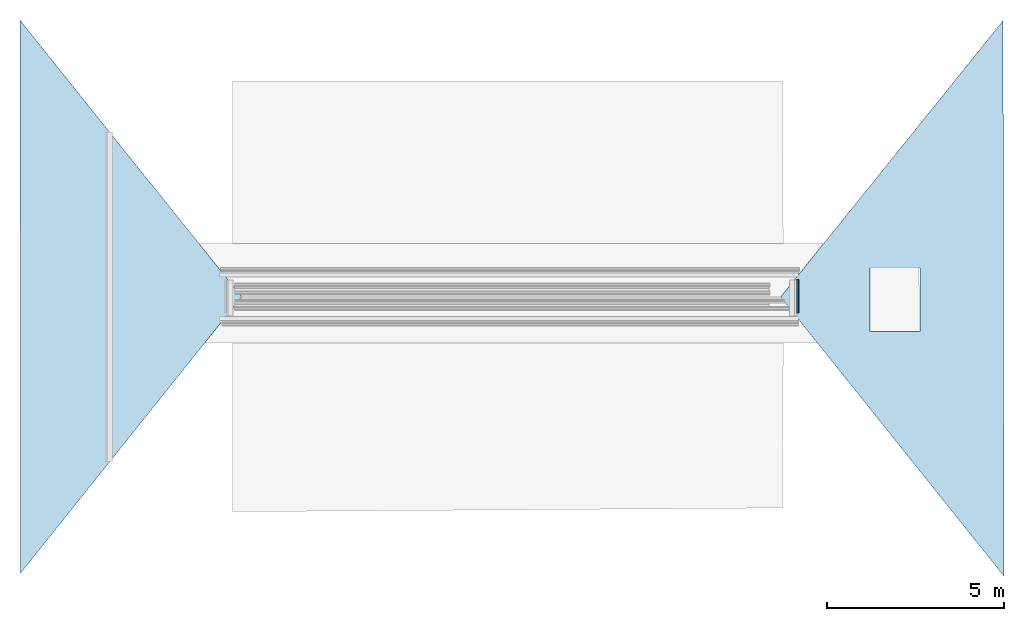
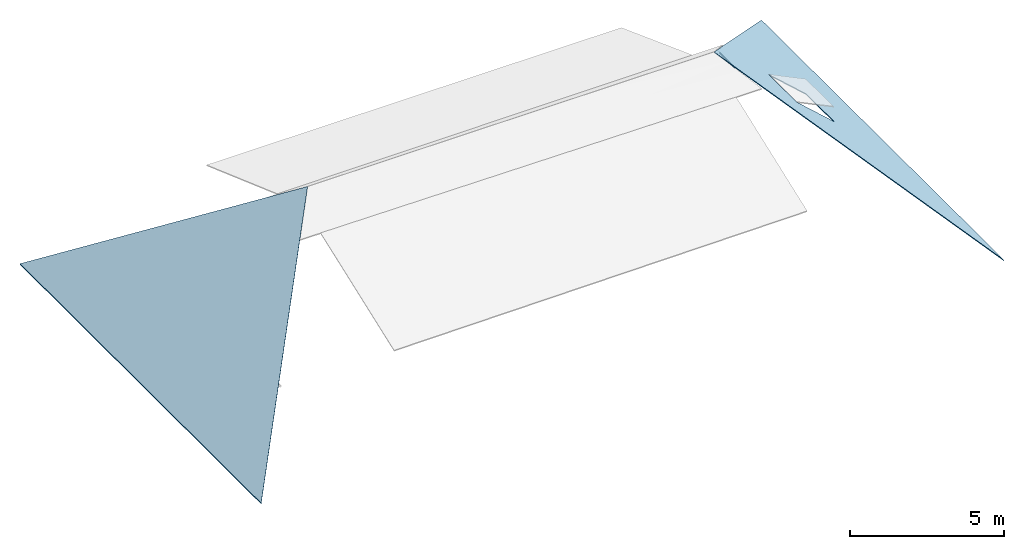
# One storey, part 2 of 3: 1 beam, 1 roof, 1 slab, 1 element without a shape of its own.
"""IFC2X3 building model written with IfcOpenShell, lengths in centimetres."""

import ifcopenshell
import ifcopenshell.guid

model = None  # the IFC model being written
_history = None  # IfcOwnerHistory: only IFC2X3 demands one
_inside = {}  # id of a spatial element -> (the spatial element, [elements in it])
_under = {}  # id of a project, library or spatial element -> (it, [spatial elements below it])
_declared = {}  # id of a project -> (the project, [libraries it declares])
_typed = {}  # id of a type object -> (the type object, [elements of that type])
_made_of = {}  # id of a material, layer set ... -> (it, [elements and type objects made of it])


def new_model(schema):
    """Start an empty IFC model of exactly this schema.

    Asked for "IFC4X3", IfcOpenShell would pick the latest addendum, in which some entities
    have other attributes; the version numbers below select the first issue.
    IFC2X3 requires an IfcOwnerHistory on every rooted entity: one is made here for all.
    """
    global model, _history
    if schema == "IFC4X3":
        model = ifcopenshell.file(schema_version=(4, 3, 0, 0))
    else:
        model = ifcopenshell.file(schema=schema)
    _inside.clear()
    _under.clear()
    _declared.clear()
    _typed.clear()
    _made_of.clear()
    _history = None
    if model.schema == "IFC2X3":
        org = make("IfcOrganization", Name="unknown")
        user = make(
            "IfcPersonAndOrganization",
            ThePerson=make("IfcPerson", FamilyName="unknown"),
            TheOrganization=org,
        )
        app = make(
            "IfcApplication",
            ApplicationDeveloper=org,
            Version="unknown",
            ApplicationFullName="unknown",
            ApplicationIdentifier="unknown",
        )
        _history = make(
            "IfcOwnerHistory",
            OwningUser=user,
            OwningApplication=app,
            ChangeAction="ADDED",
            CreationDate=0,
        )
    return model


def make(cls, **values):
    """One entity of the class cls with the attributes given. An attribute that is None is left unset."""
    return model.create_entity(
        cls, **{name: value for name, value in values.items() if value is not None}
    )


def entity(cls, *values):
    """Any entity or typed value of the class cls, its attributes in the order of the schema. None: left unset."""
    e = model.create_entity(cls)
    for i, value in enumerate(values):
        if value is not None:
            e[i] = value
    return e


def rooted(cls, **values):
    """An entity with a GlobalId (a new one), such as an element, a storey or a relation."""
    return make(cls, GlobalId=ifcopenshell.guid.new(), OwnerHistory=_history, **values)


def si_unit(unit_type, name, prefix=None):
    """IfcSIUnit, for example si_unit("LENGTHUNIT", "METRE", prefix="MILLI")."""
    return make("IfcSIUnit", UnitType=unit_type, Prefix=prefix, Name=name)


def converted_unit(unit_type, name, factor, base, dimensions=None, offset=None):
    """IfcConversionBasedUnit, such as the inch: factor (a typed value) times the base unit."""
    return make(
        "IfcConversionBasedUnit"
        if offset is None
        else "IfcConversionBasedUnitWithOffset",
        ConversionOffset=offset,
        Dimensions=None
        if dimensions is None
        else entity("IfcDimensionalExponents", *dimensions),
        UnitType=unit_type,
        Name=name,
        ConversionFactor=make(
            "IfcMeasureWithUnit", ValueComponent=factor, UnitComponent=base
        ),
    )


def assignment(units):
    """IfcUnitAssignment: the units of a project."""
    return None if units is None else make("IfcUnitAssignment", Units=units)


def point(xyz):
    """IfcCartesianPoint."""
    return None if xyz is None else make("IfcCartesianPoint", Coordinates=xyz)


def direction(xyz):
    """IfcDirection."""
    return None if xyz is None else make("IfcDirection", DirectionRatios=xyz)


def frame(location, z_axis=None, x_axis=None):
    """IfcAxis2Placement3D, a coordinate frame: its origin and axes. An axis left out is left unset."""
    return make(
        "IfcAxis2Placement3D",
        Location=point(location),
        Axis=direction(z_axis),
        RefDirection=direction(x_axis),
    )


def frame_2d(location, x_axis=None):
    """IfcAxis2Placement2D, a coordinate frame in the plane: its origin and x axis."""
    return make(
        "IfcAxis2Placement2D", Location=point(location), RefDirection=direction(x_axis)
    )


def origin():
    """The frame at (0, 0, 0) with its axes left unset."""
    return frame((0.0, 0.0, 0.0))


def place(relative_to, where):
    """IfcLocalPlacement: puts the frame where relative to a parent placement (None: the world)."""
    return make(
        "IfcLocalPlacement", PlacementRelTo=relative_to, RelativePlacement=where
    )


def context(
    kind, dimensions, precision=None, world=None, true_north=None, identifier=None
):
    """IfcGeometricRepresentationContext, for example the 3D "Model" context."""
    return make(
        "IfcGeometricRepresentationContext",
        ContextIdentifier=identifier,
        ContextType=kind,
        CoordinateSpaceDimension=dimensions,
        Precision=precision,
        WorldCoordinateSystem=world,
        TrueNorth=true_north,
    )


def subcontext(parent, identifier, kind, view, scale=None):
    """IfcGeometricRepresentationSubContext, for example "Body" below "Model"."""
    return make(
        "IfcGeometricRepresentationSubContext",
        ContextIdentifier=identifier,
        ContextType=kind,
        ParentContext=parent,
        TargetScale=scale,
        TargetView=view,
    )


def project(units=None, contexts=None):
    """IfcProject with its units and contexts."""
    return rooted(
        "IfcProject",
        Name="project",
        RepresentationContexts=contexts,
        UnitsInContext=assignment(units),
    )


def spatial(cls, under=None, at=None, **own):
    """A site, building, storey or space (cls), placed at a placement, below another one or the project."""
    s = rooted(cls, ObjectPlacement=at, **own)
    if under is not None:
        _under.setdefault(under.id(), (under, []))[1].append(s)
    return s


def polyline(points):
    """IfcPolyline through the points."""
    return make("IfcPolyline", Points=[point(p) for p in points])


def circle_curve(where, radius):
    """IfcCircle in the frame where."""
    return make("IfcCircle", Position=where, Radius=radius)


def parameter(value):
    """IfcParameterValue: where a trimmed curve begins or ends, as a parameter of its basis curve."""
    return model.create_entity("IfcParameterValue", value)


def trimmed(basis, trim1, trim2, sense, master):
    """IfcTrimmedCurve: the piece of a basis curve between two trims."""
    return make(
        "IfcTrimmedCurve",
        BasisCurve=basis,
        Trim1=trim1,
        Trim2=trim2,
        SenseAgreement=sense,
        MasterRepresentation=master,
    )


def segment(curve, same_sense, transition):
    """IfcCompositeCurveSegment."""
    return make(
        "IfcCompositeCurveSegment",
        Transition=transition,
        SameSense=same_sense,
        ParentCurve=curve,
    )


def composite_curve(segments, self_intersect=None):
    """IfcCompositeCurve: segments joined end to end."""
    return make("IfcCompositeCurve", Segments=segments, SelfIntersect=self_intersect)


def outline(outer, holes=None, kind="AREA"):
    """IfcArbitraryClosedProfileDef: a profile drawn as a closed curve; with holes, ...WithVoids."""
    if holes is None:
        return make("IfcArbitraryClosedProfileDef", ProfileType=kind, OuterCurve=outer)
    return make(
        "IfcArbitraryProfileDefWithVoids",
        ProfileType=kind,
        OuterCurve=outer,
        InnerCurves=holes,
    )


def extrude(swept, where, along, depth):
    """IfcExtrudedAreaSolid: the profile swept, set in the frame where, extruded along a direction by depth."""
    return make(
        "IfcExtrudedAreaSolid",
        SweptArea=swept,
        Position=where,
        ExtrudedDirection=direction(along),
        Depth=depth,
    )


def faces_of(points, faces, orient=None, outer=None):
    """IfcFace entities. A face is a list of loops; a loop is a list of indices into points, from 0.

    orient and outer hold one flag for each loop. By default every Orientation is true, the
    first loop of a face is its IfcFaceOuterBound and the others are IfcFaceBound.
    """
    made = []
    for i, loops in enumerate(faces):
        bounds = []
        for j, loop in enumerate(loops):
            is_outer = j == 0 if outer is None else outer[i][j]
            bounds.append(
                make(
                    "IfcFaceOuterBound" if is_outer else "IfcFaceBound",
                    Bound=make("IfcPolyLoop", Polygon=[points[k] for k in loop]),
                    Orientation=True if orient is None else orient[i][j],
                )
            )
        made.append(make("IfcFace", Bounds=bounds))
    return made


def faceted_brep(points, faces, orient=None, outer=None, voids=None):
    """IfcFacetedBrep: a solid bounded by flat faces; with voids (closed shells), ...WithVoids."""
    shared = [point(p) for p in points]
    hull = make("IfcClosedShell", CfsFaces=faces_of(shared, faces, orient, outer))
    if voids is None:
        return make("IfcFacetedBrep", Outer=hull)
    return make(
        "IfcFacetedBrepWithVoids",
        Outer=hull,
        Voids=[
            make(cls, CfsFaces=faces_of(shared, fs, o, b)) for cls, fs, o, b in voids
        ],
    )


def shape(context_of_items, identifier, shape_type, items):
    """IfcShapeRepresentation: the items that make up one representation, for example the "Body"."""
    return make(
        "IfcShapeRepresentation",
        ContextOfItems=context_of_items,
        RepresentationIdentifier=identifier,
        RepresentationType=shape_type,
        Items=items,
    )


def material(Name=None, Category=None):
    """IfcMaterial."""
    return make("IfcMaterial", Name=Name, Category=Category)


def layer(
    of_material, thickness, ventilated=None, Name=None, Category=None, Priority=None
):
    """IfcMaterialLayer: one layer of a wall or slab, of a material (None: an air gap)."""
    return make(
        "IfcMaterialLayer",
        Material=of_material,
        LayerThickness=thickness,
        IsVentilated=ventilated,
        Name=Name,
        Category=Category,
        Priority=Priority,
    )


def layer_set(layers, Name=None):
    """IfcMaterialLayerSet."""
    return make("IfcMaterialLayerSet", MaterialLayers=layers, LayerSetName=Name)


def made_of(thing, what):
    """Note that an element or type object is made of a material, layer set ...; save() writes the relation."""
    if what is not None:
        _made_of.setdefault(what.id(), (what, []))[1].append(thing)
    return thing


def type_object(cls, material=None, **own):
    """A type object (cls), such as IfcWallType, which elements share."""
    return made_of(rooted(cls, **own), material)


def element(
    cls,
    number,
    at=None,
    inside=None,
    cuts=None,
    type_object=None,
    material=None,
    context=None,
    identifier="Body",
    shape_type=None,
    held_by="IfcProductDefinitionShape",
    body=None,
    shapes=None,
    **own,
):
    """One element of the class cls, such as IfcWall. Its Tag is "e" and its number.

    at: its placement. inside: the storey or other place that contains it. cuts: it is an
    opening in that element (IfcRelVoidsElement). A single representation is given by context,
    identifier, shape_type and body (its items); several are given by shapes. held_by: the class
    of the entity that holds the representations. save() writes the other relations.
    """
    e = rooted(cls, Tag="e%d" % number, ObjectPlacement=at, **own)
    if body is not None:
        shapes = [shape(context, identifier, shape_type, body)]
    if shapes is not None:
        e.Representation = make(held_by, Representations=shapes)
    if inside is not None:
        _inside.setdefault(inside.id(), (inside, []))[1].append(e)
    if cuts is not None:
        rooted(
            "IfcRelVoidsElement", RelatingBuildingElement=cuts, RelatedOpeningElement=e
        )
    if type_object is not None:
        _typed.setdefault(type_object.id(), (type_object, []))[1].append(e)
    return made_of(e, material)


def aggregate(whole, parts):
    """IfcRelAggregates: a whole, such as a stair, and the parts it consists of."""
    return rooted("IfcRelAggregates", RelatingObject=whole, RelatedObjects=parts)


def save(model, path):
    """Write the relations noted so far, then the file.

    IfcRelAggregates (storeys below a building ...), IfcRelContainedInSpatialStructure (elements
    in a storey), IfcRelDefinesByType, IfcRelAssociatesMaterial and IfcRelDeclares: one each for
    every whole, place, type object, material and project.
    """
    for whole, parts in _under.values():
        aggregate(whole, parts)
    for where, things in _inside.values():
        rooted(
            "IfcRelContainedInSpatialStructure",
            RelatedElements=things,
            RelatingStructure=where,
        )
    for kind, things in _typed.values():
        rooted("IfcRelDefinesByType", RelatedObjects=things, RelatingType=kind)
    for what, things in _made_of.values():
        rooted("IfcRelAssociatesMaterial", RelatedObjects=things, RelatingMaterial=what)
    for by, libraries in _declared.values():
        rooted("IfcRelDeclares", RelatingContext=by, RelatedDefinitions=libraries)
    model.write(path)


model = new_model("IFC2X3")

# Units and contexts
model_context = context("Model", 3, precision=0.001, world=frame((0.0, 0.0, 13090.0)), true_north=direction((6.123233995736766e-17, 1.0)))
body_context = subcontext(model_context, "Body", "Model", "MODEL_VIEW")
ifc_project = project(units=[si_unit("LENGTHUNIT", "METRE", prefix="CENTI"), si_unit("AREAUNIT", "SQUARE_METRE"), si_unit("VOLUMEUNIT", "CUBIC_METRE"), converted_unit("PLANEANGLEUNIT", "DEGREE", entity("IfcPlaneAngleMeasure", 0.017453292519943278), si_unit("PLANEANGLEUNIT", "RADIAN"), dimensions=[0, 0, 0, 0, 0, 0, 0])], contexts=[model_context])

# Site, building, storey
site_placement = place(None, origin())
site = spatial("IfcSite", under=ifc_project, at=site_placement, Name="Default", CompositionType="ELEMENT")
building_placement = place(site_placement, origin())
building = spatial("IfcBuilding", under=site, at=building_placement, Name="e 39 logements et 22 maisons relais", CompositionType="ELEMENT")
storey_placement = place(building_placement, frame((0.0, 0.0, 825.0)))
storey = spatial("IfcBuildingStorey", under=building, at=storey_placement, Name="faîtage", CompositionType="ELEMENT", Elevation=825.0000000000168)

# Beam
ifc_material_1 = material(Name="neuf")
beam_type = type_object("IfcBeamType", Name="panne z:panne z", PredefinedType="BEAM")
beam_placement = place(storey_placement, frame((679.6922136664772, 514.0076677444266, 41.52700766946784), z_axis=(0.0, 0.0, 1.0), x_axis=(0.0, -1.0, 0.0)))
element("IfcBeam", 1, at=beam_placement, inside=storey, type_object=beam_type, material=ifc_material_1, Name="panne z:panne z", ObjectType="panne z:panne z", context=body_context, shape_type="SweptSolid", body=[
    extrude(outline(composite_curve([segment(polyline([(0.2999999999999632, -3.0), (4.599999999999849, -3.0)]), True, "CONTINUOUS"), segment(trimmed(circle_curve(frame_2d((4.600000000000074, -2.5999999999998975), x_axis=(0.0, -1.0)), 0.399999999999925), [parameter(0.0)], [parameter(90.000000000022)], True, "PARAMETER"), True, "CONTINUOUS"), segment(polyline([(5.0, -2.5999999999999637), (5.0, -1.0)]), True, "CONTINUOUS"), segment(polyline([(5.0, -1.0), (4.7999999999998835, -1.0)]), True, "CONTINUOUS"), segment(polyline([(4.799999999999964, -1.0), (4.799999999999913, -2.5999999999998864)]), True, "CONTINUOUS"), segment(trimmed(circle_curve(frame_2d((4.5999999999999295, -2.5999999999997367), x_axis=(1.0, 0.0)), 0.20000000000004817), [parameter(270.0000000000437)], [parameter(0.0)], True, "PARAMETER"), False, "CONTINUOUS"), segment(polyline([(4.599999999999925, -2.799999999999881), (0.2999999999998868, -2.799999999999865)]), True, "CONTINUOUS"), segment(trimmed(circle_curve(frame_2d((0.3000000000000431, -2.599999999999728), x_axis=(0.0, -1.0)), 0.2000000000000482), [parameter(270.0000000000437)], [parameter(0.0)], True, "PARAMETER"), False, "CONTINUOUS"), segment(polyline([(0.09999999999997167, -2.5999999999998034), (0.0999999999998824, 2.600000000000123)]), True, "CONTINUOUS"), segment(trimmed(circle_curve(frame_2d((-0.29999999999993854, 2.6000000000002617), x_axis=(1.0, 0.0)), 0.399999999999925), [parameter(0.0)], [parameter(90.000000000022)], True, "PARAMETER"), True, "CONTINUOUS"), segment(polyline([(-0.30000000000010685, 3.0), (-4.600000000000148, 3.0)]), True, "CONTINUOUS"), segment(trimmed(circle_curve(frame_2d((-4.600000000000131, 2.600000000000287), x_axis=(0.0, 1.0)), 0.399999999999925), [parameter(0.0)], [parameter(90.000000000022)], True, "PARAMETER"), True, "CONTINUOUS"), segment(polyline([(-5.0, 2.6000000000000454), (-5.0, 1.0)]), True, "CONTINUOUS"), segment(polyline([(-5.0, 1.0), (-4.800000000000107, 1.0)]), True, "CONTINUOUS"), segment(polyline([(-4.800000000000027, 1.0), (-4.800000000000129, 2.6000000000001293)]), True, "CONTINUOUS"), segment(trimmed(circle_curve(frame_2d((-4.599999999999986, 2.6000000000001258), x_axis=(-1.0, 0.0)), 0.20000000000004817), [parameter(270.0000000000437)], [parameter(0.0)], True, "PARAMETER"), False, "CONTINUOUS"), segment(polyline([(-4.599999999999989, 2.8000000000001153), (-0.3000000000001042, 2.800000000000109)]), True, "CONTINUOUS"), segment(trimmed(circle_curve(frame_2d((-0.3000000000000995, 2.600000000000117), x_axis=(0.0, 1.0)), 0.2000000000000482), [parameter(270.0000000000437)], [parameter(0.0)], True, "PARAMETER"), False, "CONTINUOUS"), segment(polyline([(-0.10000000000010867, 2.60000000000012), (-0.10000000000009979, -2.5999999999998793)]), True, "CONTINUOUS"), segment(trimmed(circle_curve(frame_2d((0.29999999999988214, -2.5999999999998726), x_axis=(-1.0, 0.0)), 0.399999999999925), [parameter(0.0)], [parameter(90.000000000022)], True, "PARAMETER"), True, "CONTINUOUS")], self_intersect=False)), frame((488.39669052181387, -12.500988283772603, -13.883754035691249), z_axis=(1.0, 0.0, 0.0), x_axis=(0.0, -0.7431448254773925, 0.6691306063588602)), (0.0, 0.0, 1.0), 94.43361090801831),
])

# Roof, slab
ifc_material_2 = material(Name="tole")
ifc_layer = layer(ifc_material_2, 4.0)
ifc_layer_set = layer_set([ifc_layer], Name="Toit de base:Tôle 1000P")
roof_1_placement = place(storey_placement, frame((-1529.3483142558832, -802.6966048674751, -490.0)))
roof_1 = element("IfcRoof", 2, at=roof_1_placement, inside=storey, material=ifc_layer_set, Name="Toit de base:Tôle 1000P", ObjectType="Toit de base:Tôle 1000P", ShapeType="NOTDEFINED")
slab_type = type_object("IfcSlabType", Name="Toit de base:Tôle 1000P", PredefinedType="ROOF")
slab_placement = place(roof_1_placement, origin())
slab = element("IfcSlab", 3, at=slab_placement, type_object=slab_type, material=ifc_layer_set, Name="Toit de base:Tôle 1000P", ObjectType="Toit de base:Tôle 1000P", PredefinedType="ROOF", context=body_context, shape_type="SweptSolid", body=[
    extrude(outline(polyline([(809.6869367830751, 28.761805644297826), (-32.08521814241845, 809.5620518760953), (-29.58580260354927, -752.358035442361), (809.6869367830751, 28.761805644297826)])), frame((23.85832533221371, 752.3094608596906, 21.550360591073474), z_axis=(-0.6686331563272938, -0.0017477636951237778, 0.7435903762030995), x_axis=(0.7435924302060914, -0.0015715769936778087, 0.6686313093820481)), (0.6686313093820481, 0.0023504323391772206, 0.7435903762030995), 3.999999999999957),
])
aggregate(roof_1, [slab])

# Roof
type_product = type_object("IfcTypeProduct", Name="Toit de base:Tôle 1000P")
roof_2_placement = place(storey_placement, frame((618.8376805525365, -811.6927073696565, -494.0)))
element("IfcRoof", 4, at=roof_2_placement, inside=storey, type_object=type_product, material=ifc_layer_set, Name="Toit de base:Tôle 1000P", ObjectType="Toit de base:Tôle 1000P", ShapeType="NOTDEFINED", context=body_context, shape_type="Brep", body=[
    faceted_brep([(630.9967035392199, 0.0, 4.0), (630.9967035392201, 0.0, 0.0), (628.4521011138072, 1569.2225236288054, 0.0), (628.4521011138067, 1569.2225236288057, 4.0), (0.0, 788.4452140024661, 571.0), (0.0, 788.4452140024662, 567.0), (252.81044422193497, 870.8948041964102, 343.24839331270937), (393.2689709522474, 870.8948041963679, 216.7791464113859), (393.26897095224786, 690.8110519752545, 217.04208041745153), (252.81044422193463, 690.8110519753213, 343.51132731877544), (393.2689709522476, 870.8948041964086, 212.77914641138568), (252.81044422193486, 870.8948041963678, 339.2483933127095), (252.81044422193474, 690.8110519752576, 339.51132731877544), (393.2689709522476, 690.8110519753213, 213.04208041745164)], [[[0, 1, 2, 3]], [[1, 0, 4, 5]], [[3, 2, 5, 4]], [[0, 3, 4], [6, 7, 8, 9]], [[1, 5, 2], [10, 11, 12, 13]], [[10, 7, 6, 11]], [[11, 6, 9, 12]], [[12, 9, 8, 13]], [[7, 10, 13, 8]]]),
])

save(model, "model.ifc")
